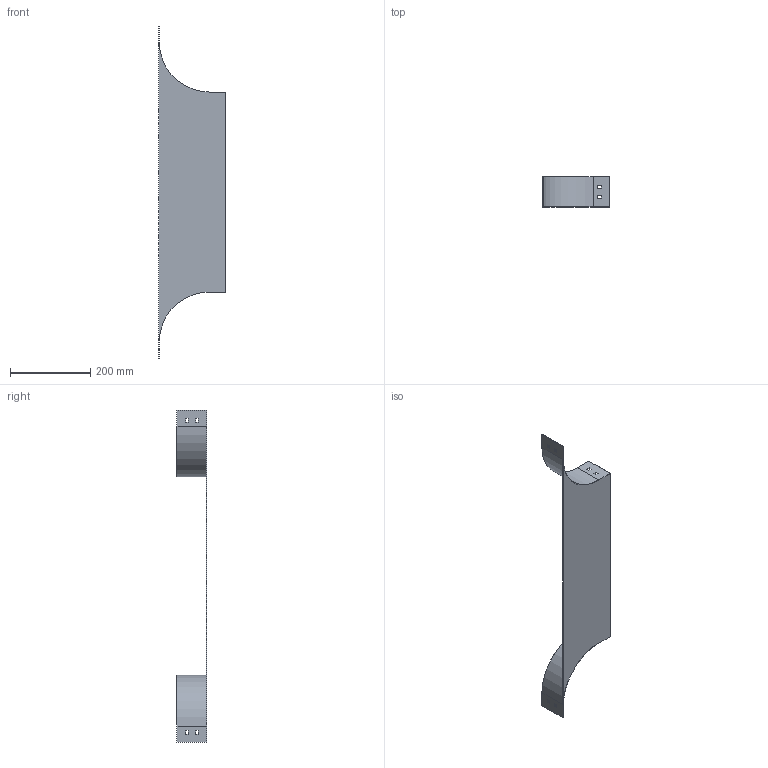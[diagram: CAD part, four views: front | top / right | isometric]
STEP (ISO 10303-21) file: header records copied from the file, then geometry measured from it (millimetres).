
FILE_DESCRIPTION (( 'STEP AP214' ), '1' );
FILE_NAME ('RL_507.step', '2025-07-16T09:25:46', ( '' ), ( '' ), 'SwSTEP 2.0', 'SolidWorks 2023', '' );
FILE_SCHEMA (( 'AUTOMOTIVE_DESIGN' ));
Length unit declared in the file: millimetre
Products named in the file (1): RL_507
Bounding box: 166.5 x 75 x 830 mm (x, y, z)
Volume: 196031.8 mm3; surface area: 265053.3 mm2
Topology: 1 solids, 1 shells, 50 faces, 144 edges, 96 vertices
Faces by surface type: plane 46, cylinder 4
Entity records: 1671 total; most frequent: CARTESIAN_POINT 291, ORIENTED_EDGE 288, DIRECTION 254, EDGE_CURVE 144, LINE 136, VECTOR 136, VERTEX_POINT 96, EDGE_LOOP 66
